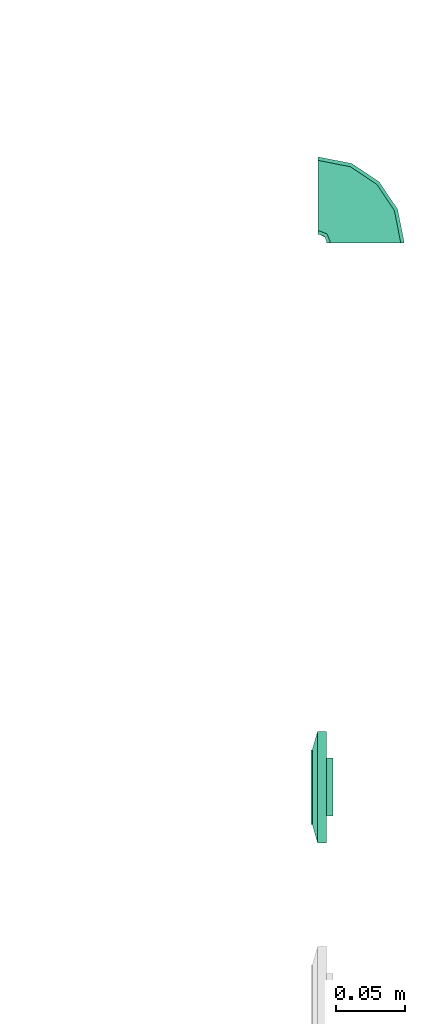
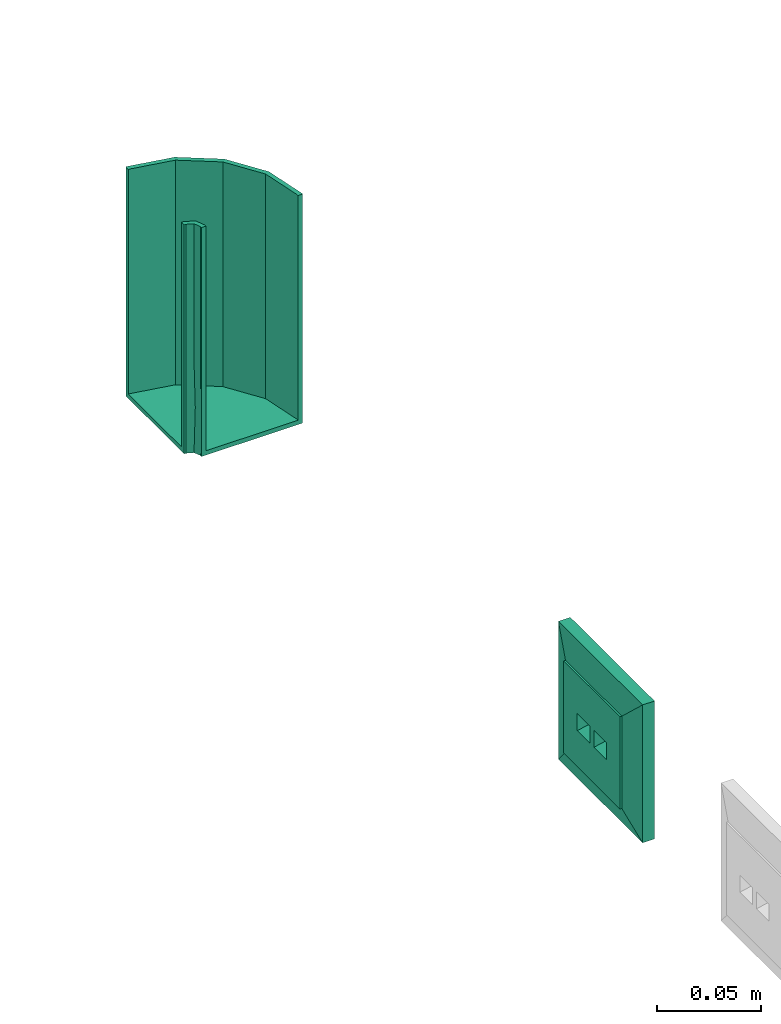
# One storey, part 145 of 146: 1 flow fitting, 1 flow terminal.
"""IFC2X3 building model written with IfcOpenShell, lengths in metres."""

from ifc_helpers import new_model, entity, si_unit, converted_unit, derived_unit, direction, frame, origin, place, context, subcontext, project, spatial, faceted_brep, source, transform, mapped, type_object, type_shapes, element, save


model = new_model("IFC2X3")

# Units and contexts
model_context = context("Model", 3, precision=1e-05, world=origin(), true_north=direction((6.12303176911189e-17, 1.0)))
body_context = subcontext(model_context, "Body", "Model", "MODEL_VIEW")
ifc_project = project(units=[si_unit("LENGTHUNIT", "METRE"), si_unit("AREAUNIT", "SQUARE_METRE"), si_unit("VOLUMEUNIT", "CUBIC_METRE"), converted_unit("PLANEANGLEUNIT", "DEGREE", entity("IfcRatioMeasure", 0.0174532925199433), si_unit("PLANEANGLEUNIT", "RADIAN"), dimensions=[0, 0, 0, 0, 0, 0, 0]), si_unit("MASSUNIT", "GRAM", prefix="KILO"), derived_unit("MASSDENSITYUNIT", [(si_unit("MASSUNIT", "GRAM", prefix="KILO"), 1), (si_unit("LENGTHUNIT", "METRE"), -3)]), si_unit("TIMEUNIT", "SECOND"), si_unit("FREQUENCYUNIT", "HERTZ"), si_unit("THERMODYNAMICTEMPERATUREUNIT", "DEGREE_CELSIUS"), derived_unit("THERMALTRANSMITTANCEUNIT", [(si_unit("MASSUNIT", "GRAM", prefix="KILO"), 1), (si_unit("THERMODYNAMICTEMPERATUREUNIT", "KELVIN"), -1), (si_unit("TIMEUNIT", "SECOND"), -3)]), derived_unit("VOLUMETRICFLOWRATEUNIT", [(si_unit("LENGTHUNIT", "METRE"), 3), (si_unit("TIMEUNIT", "SECOND"), -1)]), si_unit("ELECTRICCURRENTUNIT", "AMPERE"), si_unit("ELECTRICVOLTAGEUNIT", "VOLT"), si_unit("POWERUNIT", "WATT"), si_unit("FORCEUNIT", "NEWTON"), si_unit("ILLUMINANCEUNIT", "LUX"), si_unit("LUMINOUSFLUXUNIT", "LUMEN"), si_unit("LUMINOUSINTENSITYUNIT", "CANDELA"), derived_unit("USERDEFINED", [(si_unit("MASSUNIT", "GRAM", prefix="KILO"), -1), (si_unit("LENGTHUNIT", "METRE"), -2), (si_unit("TIMEUNIT", "SECOND"), 3), (si_unit("LUMINOUSFLUXUNIT", "LUMEN"), 1)]), derived_unit("LINEARVELOCITYUNIT", [(si_unit("LENGTHUNIT", "METRE"), 1), (si_unit("TIMEUNIT", "SECOND"), -1)]), si_unit("PRESSUREUNIT", "PASCAL"), derived_unit("USERDEFINED", [(si_unit("LENGTHUNIT", "METRE"), -2), (si_unit("MASSUNIT", "GRAM", prefix="KILO"), 1), (si_unit("TIMEUNIT", "SECOND"), -2)])], contexts=[model_context])

# Site, building, storey
site_placement = place(None, origin())
site = spatial("IfcSite", under=ifc_project, at=site_placement, Name="Default", CompositionType="ELEMENT")
building_placement = place(site_placement, origin())
building = spatial("IfcBuilding", under=site, at=building_placement, CompositionType="ELEMENT")
storey_placement = place(building_placement, origin())
storey = spatial("IfcBuildingStorey", under=building, at=storey_placement, Name="S01", CompositionType="ELEMENT", Elevation=0.0)

# Flow terminal
electric_appliance_type = type_object("IfcElectricApplianceType", Name="RJ45 IP20", PredefinedType="NOTDEFINED")
shared_shape_1 = source(origin(), body_context, "Body", "Brep", [
    faceted_brep([(0.00200000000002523, 0.0, 0.00799999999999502), (0.00400000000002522, 0.0, 0.00799999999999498), (0.00500000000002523, 0.00199999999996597, 0.00799999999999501), (0.0110000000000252, 0.00199999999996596, 0.00799999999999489), (0.0120000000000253, 0.0, 0.00799999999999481), (0.0140000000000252, 0.0, 0.00799999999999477), (0.0140000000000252, 0.00399999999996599, 0.00799999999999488), (0.00200000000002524, 0.00399999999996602, 0.00799999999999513), (0.00200000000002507, 0.0, 0.0), (0.00200000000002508, 0.00399999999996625, 0.0), (0.0140000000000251, 0.00399999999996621, 0.0), (0.0140000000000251, 0.0, 0.0), (0.0120000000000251, 0.0, 0.0), (0.0110000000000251, 0.00199999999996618, 0.0), (0.00500000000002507, 0.0019999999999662, 0.0), (0.00400000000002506, 0.0, 0.0)], [[[0, 1, 2, 3, 4, 5, 6, 7]], [[8, 9, 10, 11, 12, 13, 14, 15]], [[1, 0, 8, 15]], [[2, 1, 15, 14]], [[3, 2, 14, 13]], [[4, 3, 13, 12]], [[5, 4, 12, 11]], [[6, 5, 11, 10]], [[7, 6, 10, 9]], [[0, 7, 9, 8]]]),
    faceted_brep([(-0.0139999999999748, 0.0, 0.00799999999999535), (-0.0119999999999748, 0.0, 0.00799999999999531), (-0.0109999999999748, 0.00199999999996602, 0.00799999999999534), (-0.00499999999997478, 0.00199999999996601, 0.00799999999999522), (-0.0039999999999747, 0.0, 0.00799999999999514), (-0.00199999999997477, 0.0, 0.0079999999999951), (-0.00199999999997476, 0.00399999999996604, 0.00799999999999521), (-0.0139999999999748, 0.00399999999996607, 0.00799999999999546), (-0.0139999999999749, 0.0, 0.0), (-0.0139999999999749, 0.00399999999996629, 0.0), (-0.00199999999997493, 0.00399999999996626, 0.0), (-0.00199999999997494, 0.0, 0.0), (-0.00399999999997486, 0.0, 0.0), (-0.00499999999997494, 0.00199999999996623, 0.0), (-0.0109999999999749, 0.00199999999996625, 0.0), (-0.0119999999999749, 0.0, 0.0)], [[[0, 1, 2, 3, 4, 5, 6, 7]], [[8, 9, 10, 11, 12, 13, 14, 15]], [[1, 0, 8, 15]], [[2, 1, 15, 14]], [[3, 2, 14, 13]], [[4, 3, 13, 12]], [[5, 4, 12, 11]], [[6, 5, 11, 10]], [[7, 6, 10, 9]], [[0, 7, 9, 8]]]),
    faceted_brep([(0.0140000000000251, 0.00399999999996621, 0.0), (0.00200000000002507, 0.00399999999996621, 0.0), (0.00200000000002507, -0.00350000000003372, 0.0), (0.0140000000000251, -0.00350000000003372, 0.0), (0.0140000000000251, 0.00399999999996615, 0.00199999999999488), (0.00200000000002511, 0.00399999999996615, 0.00199999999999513), (0.00200000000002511, -0.00393859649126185, 0.00199999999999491), (0.0140000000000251, -0.00393859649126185, 0.00199999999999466), (0.0210000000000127, 0.0209999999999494, 0.00199999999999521), (-0.0209999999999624, 0.0209999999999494, 0.00199999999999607), (-0.0209999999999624, -0.0210000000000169, 0.00199999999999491), (0.0210000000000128, -0.0210000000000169, 0.00199999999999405), (-0.0139999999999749, 0.0039999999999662, 0.00199999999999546), (-0.0019999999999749, 0.0039999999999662, 0.00199999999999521), (-0.00199999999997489, -0.0039385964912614, 0.00199999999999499), (-0.0139999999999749, -0.00393859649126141, 0.00199999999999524), (0.0210000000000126, 0.0209999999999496, -0.00460000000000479), (0.0210000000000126, -0.0210000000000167, -0.00460000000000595), (-0.0209999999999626, -0.0210000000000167, -0.00460000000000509), (-0.0209999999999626, 0.0209999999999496, -0.00460000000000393), (-0.00199999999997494, 0.00399999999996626, 0.0), (-0.0139999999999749, 0.00399999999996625, 0.0), (-0.0139999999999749, -0.00350000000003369, 0.0), (-0.00199999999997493, -0.00350000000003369, 0.0)], [[[0, 1, 2, 3]], [[1, 0, 4, 5]], [[2, 1, 5, 6]], [[3, 2, 6, 7]], [[0, 3, 7, 4]], [[5, 4, 7, 6], [8, 9, 10, 11], [12, 13, 14, 15]], [[16, 17, 18, 19]], [[9, 8, 16, 19]], [[10, 9, 19, 18]], [[11, 10, 18, 17]], [[8, 11, 17, 16]], [[20, 21, 22, 23]], [[21, 20, 13, 12]], [[22, 21, 12, 15]], [[23, 22, 15, 14]], [[20, 23, 14, 13]]], outer=[[True], [True], [True], [True], [True], [False, True, False], [True], [True], [True], [True], [True], [True], [True], [True], [True], [True]]),
    faceted_brep([(0.0270000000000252, 0.026999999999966, 0.0113999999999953), (-0.0269999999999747, 0.026999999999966, 0.0113999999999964), (-0.0269999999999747, -0.0270000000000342, 0.0113999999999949), (0.0270000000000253, -0.0270000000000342, 0.0113999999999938), (0.0020000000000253, 0.00399999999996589, 0.0113999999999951), (0.0140000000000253, 0.00399999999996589, 0.0113999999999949), (0.0140000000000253, -0.00600000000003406, 0.0113999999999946), (0.0020000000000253, -0.00600000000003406, 0.0113999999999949), (-0.0139999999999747, 0.00399999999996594, 0.0113999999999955), (-0.00199999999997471, 0.00399999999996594, 0.0113999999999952), (-0.00199999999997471, -0.0060000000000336, 0.0113999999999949), (-0.0139999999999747, -0.00600000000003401, 0.0113999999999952), (0.0270000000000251, 0.0269999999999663, 0.00199999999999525), (0.0270000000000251, -0.0270000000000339, 0.00199999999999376), (-0.0269999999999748, -0.0270000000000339, 0.00199999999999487), (-0.0269999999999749, 0.0269999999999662, 0.00199999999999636), (0.0140000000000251, 0.00399999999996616, 0.00199999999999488), (0.00200000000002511, 0.00399999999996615, 0.00199999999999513), (0.00200000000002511, -0.00393859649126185, 0.00199999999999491), (0.0140000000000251, -0.00393859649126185, 0.00199999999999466), (-0.00199999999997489, 0.0039999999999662, 0.00199999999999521), (-0.0139999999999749, 0.0039999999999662, 0.00199999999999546), (-0.0139999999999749, -0.0039385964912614, 0.00199999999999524), (-0.00199999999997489, -0.0039385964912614, 0.00199999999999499)], [[[0, 1, 2, 3], [4, 5, 6, 7], [8, 9, 10, 11]], [[12, 13, 14, 15], [16, 17, 18, 19], [20, 21, 22, 23]], [[1, 0, 12, 15]], [[2, 1, 15, 14]], [[3, 2, 14, 13]], [[0, 3, 13, 12]], [[4, 17, 16, 5]], [[17, 4, 7, 18]], [[18, 7, 6, 19]], [[5, 16, 19, 6]], [[8, 21, 20, 9]], [[21, 8, 11, 22]], [[22, 11, 10, 23]], [[9, 20, 23, 10]]]),
    faceted_brep([(0.027000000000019, 0.0269999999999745, 0.00659999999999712), (-0.0269999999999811, 0.0269999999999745, 0.00659999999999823), (-0.026999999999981, -0.0270000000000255, 0.00659999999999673), (0.027000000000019, -0.0270000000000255, 0.00659999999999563), (0.040350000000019, 0.0403499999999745, 0.00659999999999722), (0.040350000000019, -0.0403500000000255, 0.00659999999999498), (-0.0403499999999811, -0.0403500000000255, 0.00659999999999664), (-0.0403499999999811, 0.0403499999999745, 0.00659999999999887), (-0.026999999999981, 0.0269999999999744, 0.0103999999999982), (0.027000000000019, 0.0269999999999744, 0.0103999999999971), (-0.026999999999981, -0.0270000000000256, 0.0103999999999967), (0.027000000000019, -0.0270000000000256, 0.0103999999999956)], [[[0, 1, 2, 3], [4, 5, 6, 7]], [[4, 7, 8, 9]], [[7, 6, 10, 8]], [[6, 5, 11, 10]], [[5, 4, 9, 11]], [[0, 9, 8, 1]], [[1, 8, 10, 2]], [[2, 10, 11, 3]], [[9, 0, 3, 11]]], outer=[[False, True], [True], [True], [True], [True], [True], [True], [True], [True]]),
    faceted_brep([(0.040350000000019, 0.0403499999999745, 0.00659999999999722), (-0.0403499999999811, 0.0403499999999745, 0.00659999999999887), (-0.0403499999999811, -0.0403500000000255, 0.00659999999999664), (0.040350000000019, -0.0403500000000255, 0.00659999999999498), (-0.0269999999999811, 0.0269999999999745, 0.00659999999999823), (0.0270000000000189, 0.0269999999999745, 0.00659999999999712), (0.0270000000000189, -0.0270000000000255, 0.00659999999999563), (-0.0269999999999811, -0.0270000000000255, 0.00659999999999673), (0.0403500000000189, 0.0403499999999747, 0.0), (0.0403500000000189, -0.0403500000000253, 0.0), (-0.0403499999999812, -0.0403500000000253, 0.0), (-0.0403499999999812, 0.0403499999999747, 0.0), (0.0270000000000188, 0.0269999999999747, 0.0), (-0.0269999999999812, 0.0269999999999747, 0.0), (-0.0269999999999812, -0.0270000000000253, 0.0), (0.0270000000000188, -0.0270000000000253, 0.0)], [[[0, 1, 2, 3], [4, 5, 6, 7]], [[8, 9, 10, 11], [12, 13, 14, 15]], [[1, 0, 8, 11]], [[2, 1, 11, 10]], [[3, 2, 10, 9]], [[0, 3, 9, 8]], [[12, 5, 4, 13]], [[13, 4, 7, 14]], [[14, 7, 6, 15]], [[5, 12, 15, 6]]]),
])
type_shapes(electric_appliance_type, [shared_shape_1])
flow_terminal_placement = place(storey_placement, frame((69.5144377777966, -185.664130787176, 0.320000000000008), z_axis=(-1.0, 0.0, 0.0), x_axis=(0.0, -1.0, 0.0)))
element("IfcFlowTerminal", 1, at=flow_terminal_placement, inside=storey, type_object=electric_appliance_type, Name="INT_Prise RJ45:RJ45 IP20", ObjectType="INT_Prise RJ45:RJ45 IP20", context=body_context, shape_type="MappedRepresentation", body=[
    mapped(shared_shape_1, transform((0.0, 0.0, 0.0), scale=1.0)),
])

# Flow fitting
cable_carrier_fitting_type = type_object("IfcCableCarrierFittingType", Name="E_Bend_Horizontal_CA_Generic_MEPcontent", PredefinedType="NOTDEFINED")
shared_shape_2 = source(origin(), body_context, "Body", "Brep", [
    faceted_brep([(-0.0279999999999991, 0.03307999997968, -0.067), (-0.0279999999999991, 0.03307999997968, -0.0276504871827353), (-0.0279999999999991, 0.03307999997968, 0.0116990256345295), (-0.0279999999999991, 0.03307999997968, 0.0473252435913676), (-0.0279999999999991, 0.03307999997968, 0.067), (-0.0254600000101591, 0.03307999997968, 0.067), (-0.0254600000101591, 0.03307999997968, 0.0188068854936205), (-0.0254600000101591, 0.03307999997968, -0.0162668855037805), (-0.0254600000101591, 0.03307999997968, -0.06446000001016), (0.0254600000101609, 0.0330799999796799, -0.06446000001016), (0.0254600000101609, 0.0330799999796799, 0.067), (0.0280000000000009, 0.0330799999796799, 0.067), (0.0280000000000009, 0.0330799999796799, -0.067), (-0.0330799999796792, -0.028, -0.067), (-0.0330799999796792, -0.028, 0.067), (-0.0330799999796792, -0.02546000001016, 0.067), (-0.0330799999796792, -0.02546000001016, -0.06446000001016), (-0.0330799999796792, 0.02546000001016, -0.06446000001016), (-0.0330799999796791, 0.02546000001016, 0.00126998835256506), (-0.0330799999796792, 0.02546000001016, 0.067), (-0.0330799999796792, 0.028, 0.067), (-0.0330799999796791, 0.028, 0.0276504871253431), (-0.0330799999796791, 0.028, 0.0), (-0.0330799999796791, 0.028, -0.0276504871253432), (-0.0330799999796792, 0.028, -0.067), (-0.0294878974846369, 0.0294878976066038, -0.0138252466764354), (-0.0294694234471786, 0.0295064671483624, 0.0369500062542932), (-0.0299743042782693, 0.0290599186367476, -0.0404126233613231), (-0.0294878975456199, 0.0294878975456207, -0.067), (-0.0294878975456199, 0.0294878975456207, 0.067), (-0.0276918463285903, 0.0276918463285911, 0.067), (-0.0213928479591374, -0.0256752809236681, 0.067), (-0.00970569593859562, -0.0233505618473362, 0.067), (0.000202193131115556, -0.0167303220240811, 0.067), (0.0101100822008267, -0.010110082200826, 0.067), (0.0167303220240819, -0.000202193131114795, 0.067), (0.023350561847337, 0.00970569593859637, 0.067), (0.0256752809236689, 0.0213928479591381, 0.067), (0.0232319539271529, 0.0218788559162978, 0.067), (0.0210039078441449, 0.0106777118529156, 0.067), (0.014658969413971, 0.00118184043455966, 0.067), (0.0083140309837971, -0.00831403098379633, 0.067), (-0.00118184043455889, -0.0146589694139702, 0.067), (-0.0106777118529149, -0.0210039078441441, 0.067), (-0.021878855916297, -0.0232319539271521, 0.067), (-0.0276918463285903, 0.0276918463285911, -0.06446000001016), (-0.0275154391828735, 0.0278742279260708, 0.00127000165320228), (-0.021878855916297, -0.0232319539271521, -0.06446000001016), (-0.0106777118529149, -0.0210039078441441, -0.06446000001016), (-0.00118184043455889, -0.0146589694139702, -0.06446000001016), (0.0083140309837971, -0.00831403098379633, -0.06446000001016), (0.014658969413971, 0.00118184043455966, -0.06446000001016), (0.0210039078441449, 0.0106777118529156, -0.06446000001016), (0.0234476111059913, 0.0229630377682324, -0.06446000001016), (-0.0213928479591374, -0.0256752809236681, -0.067), (-0.00970569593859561, -0.0233505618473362, -0.067), (0.00020219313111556, -0.0167303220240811, -0.067), (0.0101100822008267, -0.010110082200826, -0.067), (0.0258958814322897, 0.0225018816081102, -0.067), (0.023350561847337, 0.00970569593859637, -0.067), (0.0167303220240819, -0.000202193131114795, -0.067)], [[[0, 1, 2, 3, 4, 5, 6, 7, 8, 9, 10, 11, 12]], [[13, 14, 15, 16, 17, 18, 19, 20, 21, 22, 23, 24]], [[22, 25, 23]], [[26, 22, 21, 20]], [[2, 25, 26]], [[25, 2, 1]], [[27, 28, 24]], [[22, 26, 25]], [[27, 1, 0]], [[26, 20, 29]], [[23, 25, 27]], [[1, 27, 25]], [[3, 26, 29]], [[29, 4, 3]], [[26, 3, 2]], [[23, 27, 24]], [[0, 28, 27]], [[19, 30, 5, 4, 29, 20]], [[15, 14, 31, 32, 33, 34, 35, 36, 37, 11, 10, 38, 39, 40, 41, 42, 43, 44]], [[45, 8, 7]], [[6, 5, 30]], [[46, 30, 18]], [[30, 46, 6]], [[30, 19, 18]], [[18, 17, 45]], [[46, 45, 7]], [[45, 46, 18]], [[6, 46, 7]], [[45, 17, 16, 47, 48, 49, 50, 51, 52, 53, 9, 8]], [[15, 44, 43, 48, 47, 16]], [[50, 49, 48, 43, 42, 41]], [[38, 10, 9, 53, 52, 39]], [[52, 51, 50, 41, 40, 39]], [[13, 54, 55, 32, 31, 14]], [[34, 33, 32, 55, 56, 57]], [[58, 12, 11, 37, 36, 59]], [[36, 35, 34, 57, 60, 59]], [[55, 54, 13, 24, 28, 0, 12, 58, 59, 60, 57, 56]]]),
    faceted_brep([(0.0280000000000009, 0.0330799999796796, -0.067), (0.0280000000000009, 0.0330799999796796, 0.067), (0.0254600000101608, 0.0330799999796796, 0.067), (0.0254600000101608, 0.0330799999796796, -0.06446000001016), (-0.0254600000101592, 0.0330799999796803, -0.06446000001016), (-0.0254600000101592, 0.0330799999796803, 0.067), (-0.0279999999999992, 0.0330799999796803, 0.067), (-0.0279999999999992, 0.0330799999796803, -0.067), (0.0280000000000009, 0.0340799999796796, -0.067), (-0.0279999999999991, 0.0340799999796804, -0.067), (-0.0279999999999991, 0.0340799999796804, 0.067), (-0.0254600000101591, 0.0340799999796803, 0.067), (-0.0254600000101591, 0.0340799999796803, -0.06446000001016), (0.0254600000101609, 0.0340799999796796, -0.06446000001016), (0.0254600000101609, 0.0340799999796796, 0.067), (0.0280000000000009, 0.0340799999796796, 0.067)], [[[0, 1, 2, 3, 4, 5, 6, 7]], [[8, 9, 10, 11, 12, 13, 14, 15]], [[1, 0, 8, 15]], [[2, 1, 15, 14]], [[3, 2, 14, 13]], [[4, 3, 13, 12]], [[5, 4, 12, 11]], [[6, 5, 11, 10]], [[7, 6, 10, 9]], [[0, 7, 9, 8]]]),
    faceted_brep([(-0.0330799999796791, 0.028, -0.067), (-0.0330799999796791, 0.028, 0.067), (-0.0330799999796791, 0.02546000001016, 0.067), (-0.0330799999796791, 0.02546000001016, -0.06446000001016), (-0.0330799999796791, -0.02546000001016, -0.06446000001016), (-0.0330799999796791, -0.02546000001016, 0.067), (-0.0330799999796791, -0.028, 0.067), (-0.0330799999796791, -0.028, -0.067), (-0.0340799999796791, 0.028, -0.067), (-0.0340799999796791, -0.028, -0.067), (-0.0340799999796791, -0.028, 0.067), (-0.0340799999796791, -0.02546000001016, 0.067), (-0.0340799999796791, -0.02546000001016, -0.06446000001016), (-0.0340799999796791, 0.02546000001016, -0.06446000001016), (-0.0340799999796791, 0.02546000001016, 0.067), (-0.0340799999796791, 0.028, 0.067)], [[[0, 1, 2, 3, 4, 5, 6, 7]], [[8, 9, 10, 11, 12, 13, 14, 15]], [[1, 0, 8, 15]], [[2, 1, 15, 14]], [[3, 2, 14, 13]], [[4, 3, 13, 12]], [[5, 4, 12, 11]], [[6, 5, 11, 10]], [[7, 6, 10, 9]], [[0, 7, 9, 8]]]),
])
type_shapes(cable_carrier_fitting_type, [shared_shape_2])
flow_fitting_placement = place(building_placement, frame((69.5424377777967, -185.236069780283, 0.307), z_axis=(0.0, 0.0, 1.0), x_axis=(0.0, 1.0, 0.0)))
element("IfcFlowFitting", 2, at=flow_fitting_placement, inside=storey, type_object=cable_carrier_fitting_type, Name="E_Bend_Horizontal_CA_Generic_MEPcontent:E_Bend_Horizontal_CA_Generic_MEPcontent", ObjectType="E_Bend_Horizontal_CA_Generic_MEPcontent:E_Bend_Horizontal_CA_Generic_MEPcontent", context=body_context, shape_type="MappedRepresentation", body=[
    mapped(shared_shape_2, transform((0.0, 0.0, 0.0), scale=1.0)),
])

save(model, "model.ifc")
